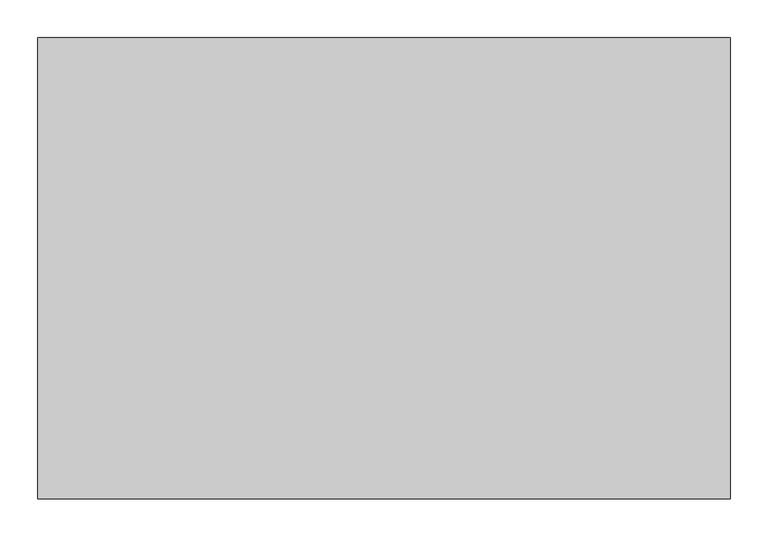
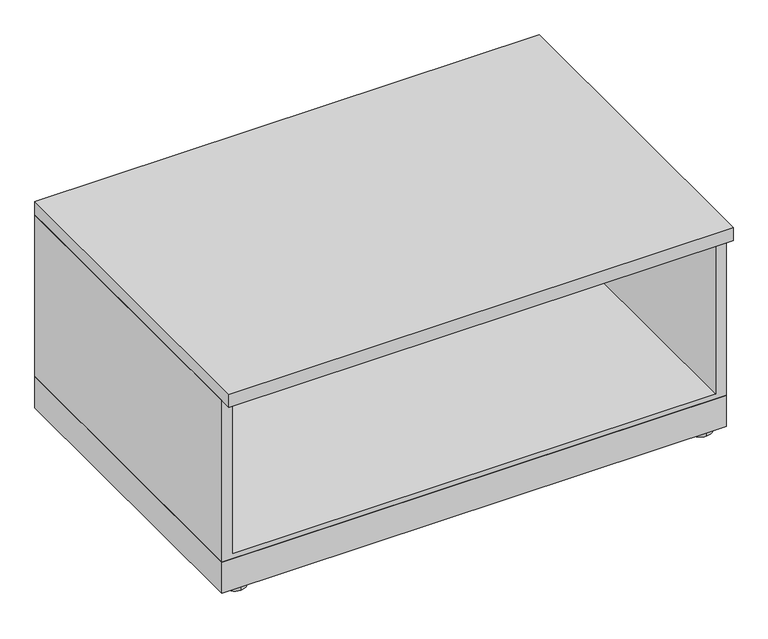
"""IFC4 building model written with IfcOpenShell, lengths in millimetres: furniture geometry, Steelcase - Universal Storage - Lateral File - 1 High - Proud Front : Open - 24D x 36W."""

from ifc_helpers import new_model, si_unit, point, frame, frame_2d, origin, origin_with_axes, place, context, project, spatial, polyline, circle_curve, trimmed, segment, composite_curve, outline, extrude, source, transform, mapped, element, save


def furniture_7f63822a(model_context):
    return source(origin(), model_context, "Body", "SweptSolid", [
        extrude(outline(polyline([(914.4, 0.0), (914.4, -587.502), (0.0, -587.502), (0.0, 0.0), (914.4, 0.0)])), frame((0.0, 0.0, 6.3500002), z_axis=(0.0, 0.0, 1.0), x_axis=(1.0, 0.0, 0.0)), (0.0, 0.0, 1.0), 59.6899998),
        extrude(outline(composite_curve([segment(trimmed(circle_curve(frame_2d((879.7290058, -22.3366334)), 20.32), [point((879.7290058, -42.6566334))], [point((879.7290058, -2.0166334))], False, "CARTESIAN"), True, "CONTINUOUS"), segment(trimmed(circle_curve(frame_2d((879.7290058, -22.3366334)), 20.32), [point((879.7290058, -2.0166334))], [point((879.7290058, -42.6566334))], False, "CARTESIAN"), True, "CONTINUOUS")], self_intersect=False)), origin_with_axes(), (0.0, 0.0, 1.0), 6.3500002),
        extrude(outline(composite_curve([segment(trimmed(circle_curve(frame_2d((879.7290058, -566.7528545)), 20.32), [point((879.7290058, -587.0728545))], [point((879.7290058, -546.4328545))], False, "CARTESIAN"), True, "CONTINUOUS"), segment(trimmed(circle_curve(frame_2d((879.7290058, -566.7528545)), 20.32), [point((879.7290058, -546.4328545))], [point((879.7290058, -587.0728545))], False, "CARTESIAN"), True, "CONTINUOUS")], self_intersect=False)), origin_with_axes(), (0.0, 0.0, 1.0), 6.3500002),
        extrude(outline(composite_curve([segment(trimmed(circle_curve(frame_2d((34.29, -22.3366334)), 20.32), [point((34.29, -2.0166334))], [point((34.29, -42.6566334))], False, "CARTESIAN"), True, "CONTINUOUS"), segment(trimmed(circle_curve(frame_2d((34.29, -22.3366334)), 20.32), [point((34.29, -42.6566334))], [point((34.29, -2.0166334))], False, "CARTESIAN"), True, "CONTINUOUS")], self_intersect=False)), origin_with_axes(), (0.0, 0.0, 1.0), 6.3500002),
        extrude(outline(composite_curve([segment(trimmed(circle_curve(frame_2d((34.29, -566.7528545)), 20.32), [point((34.29, -546.4328545))], [point((34.29, -587.0728545))], False, "CARTESIAN"), True, "CONTINUOUS"), segment(trimmed(circle_curve(frame_2d((34.29, -566.7528545)), 20.32), [point((34.29, -587.0728545))], [point((34.29, -546.4328545))], False, "CARTESIAN"), True, "CONTINUOUS")], self_intersect=False)), origin_with_axes(), (0.0, 0.0, 1.0), 6.3500002),
        extrude(outline(polyline([(376.301, 19.05), (376.301, 0.0), (66.04, 0.0), (66.04, 914.4), (376.301, 914.4), (376.301, 895.35), (75.184001, 895.35), (75.184001, 19.05), (376.301, 19.05)])), frame((0.0, -587.3750121, 0.0), z_axis=(0.0, 1.0, 0.0), x_axis=(0.0, 0.0, 1.0)), (0.0, 0.0, 1.0), 587.3750121),
        extrude(outline(polyline([(895.35, 0.0), (895.35, -3.9370001), (19.05, -3.9370001), (19.05, 0.0), (895.35, 0.0)])), frame((0.0, 0.0, 75.184001), z_axis=(0.0, 0.0, 1.0), x_axis=(1.0, 0.0, 0.0)), (0.0, 0.0, 1.0), 301.116999),
        extrude(outline(polyline([(914.4, 0.0), (914.4, -609.6), (0.0, -609.6), (0.0, 0.0), (914.4, 0.0)])), frame((0.0, 0.0, 376.301), z_axis=(0.0, 0.0, 1.0), x_axis=(1.0, 0.0, 0.0)), (0.0, 0.0, 1.0), 25.3999893),
    ])


if __name__ == "__main__":
    model = new_model("IFC4")
    model_context = context("Model", 3, world=origin())
    ifc_project = project(units=[si_unit("LENGTHUNIT", "METRE", prefix="MILLI")], contexts=[model_context])
    site = spatial("IfcSite", under=ifc_project)
    building = spatial("IfcBuilding", under=site)
    placement = place(None, origin())
    furniture_shape = furniture_7f63822a(model_context)
    element("IfcFurniture", 1, ObjectType="Steelcase - Universal Storage - Lateral File - 1 High - Proud Front : Open - 24D x 36W", at=placement, inside=building, context=model_context, shape_type="MappedRepresentation", body=[
        mapped(furniture_shape, transform((0.0, 0.0, 0.0), x_axis=(1.0, 0.0, 0.0), y_axis=(0.0, 1.0, 0.0), z_axis=(0.0, 0.0, 1.0))),
    ])
    save(model, "model.ifc")
